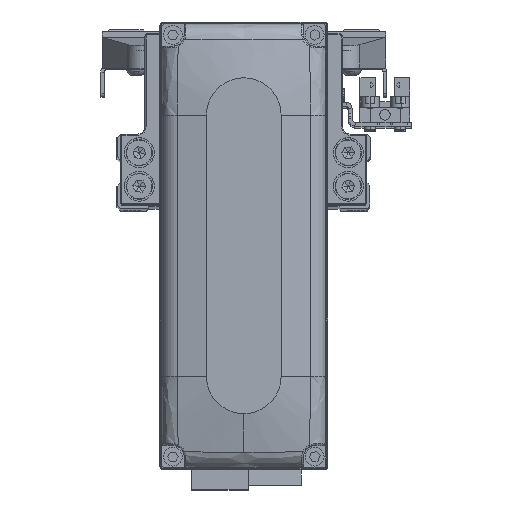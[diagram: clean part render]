
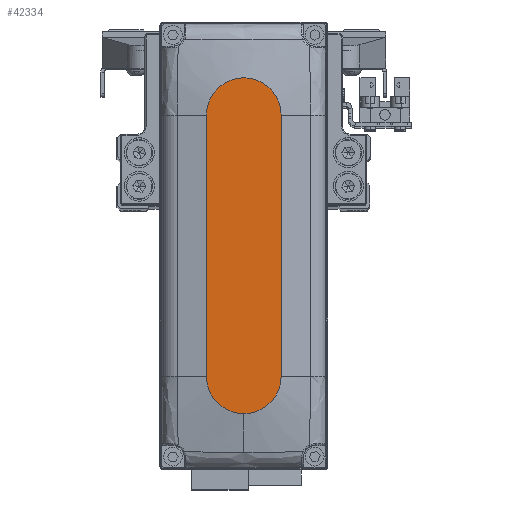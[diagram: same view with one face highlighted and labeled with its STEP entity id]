
A CAD part, top view. The second image highlights one B-rep face of the part: STEP entity #42334.
In plain terms, the highlighted planar face has unit normal (0, 0, 1).
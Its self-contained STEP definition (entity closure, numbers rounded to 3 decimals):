
#3 = CARTESIAN_POINT ( 'NONE',  ( -35., -10., 28. ) ) ;
#2340 = DIRECTION ( 'NONE',  ( -1., 0., 0. ) ) ;
#3230 = VERTEX_POINT ( 'NONE', #34888 ) ;
#4796 = DIRECTION ( 'NONE',  ( 1., 0., 0. ) ) ;
#5347 = EDGE_CURVE ( 'NONE', #32782, #3230, #30383, .T. ) ;
#8109 = PLANE ( 'NONE',  #15757 ) ;
#9368 = CIRCLE ( 'NONE', #34155, 10. ) ;
#10158 = DIRECTION ( 'NONE',  ( 1., 0., 0. ) ) ;
#11475 = EDGE_CURVE ( 'NONE', #23022, #12985, #19213, .T. ) ;
#12523 = DIRECTION ( 'NONE',  ( 1., 0., 0. ) ) ;
#12985 = VERTEX_POINT ( 'NONE', #41770 ) ;
#13529 = DIRECTION ( 'NONE',  ( 1., 0., 0. ) ) ;
#13745 = CARTESIAN_POINT ( 'NONE',  ( -35., -10., 28. ) ) ;
#13877 = ORIENTED_EDGE ( 'NONE', *, *, #5347, .T. ) ;
#14380 = CARTESIAN_POINT ( 'NONE',  ( 35., 0., 28. ) ) ;
#15757 = AXIS2_PLACEMENT_3D ( 'NONE', #21640, #35151, #4796 ) ;
#16123 = EDGE_LOOP ( 'NONE', ( #16564, #17815, #13877, #19502, #24287 ) ) ;
#16564 = ORIENTED_EDGE ( 'NONE', *, *, #11475, .T. ) ;
#17815 = ORIENTED_EDGE ( 'NONE', *, *, #40468, .T. ) ;
#19213 = LINE ( 'NONE', #32714, #40802 ) ;
#19502 = ORIENTED_EDGE ( 'NONE', *, *, #38828, .T. ) ;
#21401 = CARTESIAN_POINT ( 'NONE',  ( 35., 10., 28. ) ) ;
#21640 = CARTESIAN_POINT ( 'NONE',  ( 0., 0., 28. ) ) ;
#22217 = AXIS2_PLACEMENT_3D ( 'NONE', #14380, #27903, #41398 ) ;
#23022 = VERTEX_POINT ( 'NONE', #21401 ) ;
#24287 = ORIENTED_EDGE ( 'NONE', *, *, #31425, .T. ) ;
#26378 = CARTESIAN_POINT ( 'NONE',  ( 45., 0., 28. ) ) ;
#27018 = CARTESIAN_POINT ( 'NONE',  ( 35., 0., 28. ) ) ;
#27359 = VECTOR ( 'NONE', #13529, 1000. ) ;
#27903 = DIRECTION ( 'NONE',  ( 0., 0., 1. ) ) ;
#29367 = CARTESIAN_POINT ( 'NONE',  ( -35., 0., 28. ) ) ;
#30383 = LINE ( 'NONE', #3, #27359 ) ;
#31425 = EDGE_CURVE ( 'NONE', #33449, #23022, #35354, .T. ) ;
#32714 = CARTESIAN_POINT ( 'NONE',  ( -35., 10., 28. ) ) ;
#32782 = VERTEX_POINT ( 'NONE', #13745 ) ;
#33449 = VERTEX_POINT ( 'NONE', #26378 ) ;
#34155 = AXIS2_PLACEMENT_3D ( 'NONE', #29367, #42875, #12523 ) ;
#34888 = CARTESIAN_POINT ( 'NONE',  ( 35., -10., 28. ) ) ;
#35151 = DIRECTION ( 'NONE',  ( 0., 0., 1. ) ) ;
#35354 = CIRCLE ( 'NONE', #41015, 10. ) ;
#38483 = FACE_OUTER_BOUND ( 'NONE', #16123, .T. ) ;
#38828 = EDGE_CURVE ( 'NONE', #3230, #33449, #41316, .T. ) ;
#40468 = EDGE_CURVE ( 'NONE', #12985, #32782, #9368, .T. ) ;
#40512 = DIRECTION ( 'NONE',  ( 0., 0., 1. ) ) ;
#40802 = VECTOR ( 'NONE', #2340, 1000. ) ;
#41015 = AXIS2_PLACEMENT_3D ( 'NONE', #27018, #40512, #10158 ) ;
#41316 = CIRCLE ( 'NONE', #22217, 10. ) ;
#41398 = DIRECTION ( 'NONE',  ( 1., 0., 0. ) ) ;
#41770 = CARTESIAN_POINT ( 'NONE',  ( -35., 10., 28. ) ) ;
#42334 = ADVANCED_FACE ( 'NONE', ( #38483 ), #8109, .T. ) ;
#42875 = DIRECTION ( 'NONE',  ( 0., 0., 1. ) ) ;
